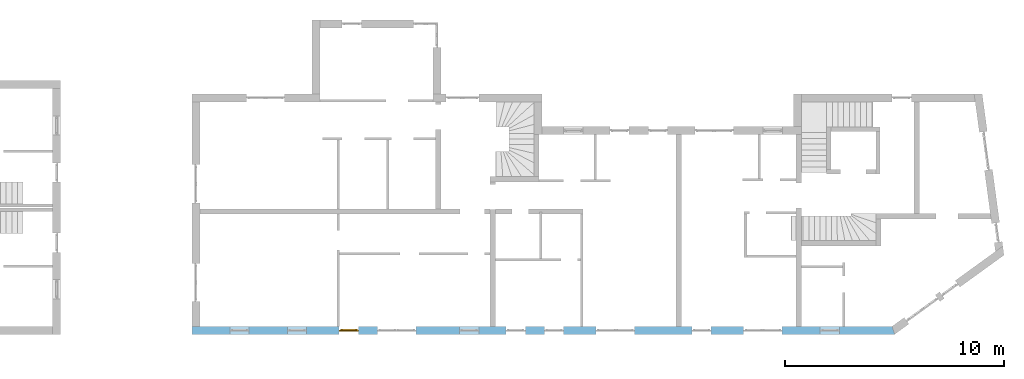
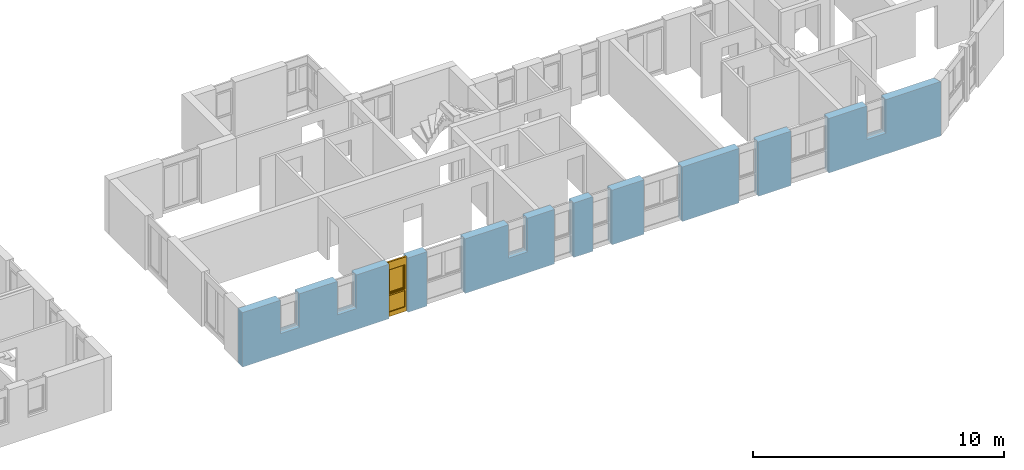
# One storey, part 26 of 42: 1 window, 11 openings, plus 1 element that does not belong to this part.
"""IFC2X3 building model written with IfcOpenShell, lengths in millimetres."""

from ifc_helpers import new_model, entity, si_unit, converted_unit, frame, frame_2d, origin, origin_with_axes, place, context, subcontext, project, spatial, polyline, rectangle, outline, extrude, faceted_brep, material, layer, layer_set, layer_usage, type_object, element, fill, save


model = new_model("IFC2X3")

# Units and contexts
model_context = context("Model", 3, precision=1e-05, world=origin())
body_context = subcontext(model_context, "Body", "Model", "MODEL_VIEW")
ifc_project = project(units=[si_unit("LENGTHUNIT", "METRE", prefix="MILLI"), converted_unit("PLANEANGLEUNIT", "DEGREE", entity("IfcPlaneAngleMeasure", 0.0174532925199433), si_unit("PLANEANGLEUNIT", "RADIAN"), dimensions=[0, 0, 0, 0, 0, 0, 0]), si_unit("AREAUNIT", "SQUARE_METRE"), si_unit("VOLUMEUNIT", "CUBIC_METRE")], contexts=[model_context])

# Building, storey
building_placement = place(None, origin())
building = spatial("IfcBuilding", under=ifc_project, at=building_placement, Name="Gebäude", CompositionType="ELEMENT")
storey_placement = place(building_placement, frame((0.0, 0.0, 2730.0), z_axis=(0.0, 0.0, 1.0), x_axis=(1.0, 0.0, 0.0)))
storey = spatial("IfcBuildingStorey", under=building, at=storey_placement, Name="OG.- Grundriss", CompositionType="ELEMENT", Elevation=2730.0)

# Wall, openings, window
ifc_material_1 = material(Name="Poroton")
ifc_layer = layer(ifc_material_1, 365.0000000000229)
ifc_layer_set = layer_set([ifc_layer])
ifc_layer_usage = layer_usage(ifc_layer_set, "AXIS2", "POSITIVE", 0.0)
wall_placement = place(storey_placement, frame((148357.7928067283, 125274.8877324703, 0.0), z_axis=(0.0, 0.0, 1.0), x_axis=(1.0, -2.749268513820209e-11, 0.0)))
wall = element("IfcWallStandardCase", 1, at=wall_placement, inside=storey, material=ifc_layer_usage, Name="<Unnamed Element>", context=body_context, shape_type="SweptSolid", body=[
    extrude(outline(polyline([(0.0, 0.0), (32144.99999877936, 0.0), (32026.74038666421, 365.0000000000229), (-1.003483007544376e-08, 365.0), (0.0, 0.0)])), origin_with_axes(), (0.0, 0.0, 1.0), 2650.0),
])
opening_1_placement = place(wall_placement, frame((22865.29648749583, -9.393166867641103e-11, 0.0), z_axis=(0.0, 1.0, 0.0), x_axis=(0.0, 0.0, 1.0)))
element("IfcOpeningElement", 2, at=opening_1_placement, cuts=wall, Name="Fensteröffnung", ObjectType="Opening", context=body_context, shape_type="SweptSolid", body=[
    extrude(rectangle(XDim=2650.0, YDim=885.0, at=frame_2d((1325.0, 442.5), x_axis=(1.0, 0.0))), origin_with_axes(), (0.0, 0.0, 1.0), 365.0000000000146),
])
opening_2_placement = place(wall_placement, frame((25240.29648749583, -1.030266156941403e-10, 0.0), z_axis=(0.0, 1.0, 0.0), x_axis=(0.0, 0.0, 1.0)))
element("IfcOpeningElement", 3, at=opening_2_placement, cuts=wall, Name="Fensteröffnung", ObjectType="Opening", context=body_context, shape_type="SweptSolid", body=[
    extrude(rectangle(XDim=2650.0, YDim=1760.0, at=frame_2d((1325.0, 880.0), x_axis=(1.0, 0.0))), origin_with_axes(), (0.0, 0.0, 1.0), 365.0000000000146),
])
opening_3_placement = place(wall_placement, frame((14365.26291869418, -5.847463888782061e-11, 0.0), z_axis=(0.0, 1.0, 0.0), x_axis=(0.0, 0.0, 1.0)))
element("IfcOpeningElement", 4, at=opening_3_placement, cuts=wall, Name="Fensteröffnung", ObjectType="Opening", context=body_context, shape_type="SweptSolid", body=[
    extrude(rectangle(XDim=2650.0, YDim=885.0, at=frame_2d((1325.0, 442.5), x_axis=(1.0, 0.0))), origin_with_axes(), (0.0, 0.0, 1.0), 365.0000000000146),
])
opening_4_placement = place(wall_placement, frame((16123.92212975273, -7.146586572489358e-11, 0.0), z_axis=(0.0, 1.0, 0.0), x_axis=(0.0, 0.0, 1.0)))
element("IfcOpeningElement", 5, at=opening_4_placement, cuts=wall, Name="Fensteröffnung", ObjectType="Opening", context=body_context, shape_type="SweptSolid", body=[
    extrude(rectangle(XDim=2650.0, YDim=885.0, at=frame_2d((1325.0, 442.5), x_axis=(1.0, 0.0))), origin_with_axes(), (0.0, 0.0, 1.0), 365.0000000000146),
])
opening_5_placement = place(wall_placement, frame((6739.999999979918, -3.114109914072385e-11, 0.0), z_axis=(0.0, 1.0, 0.0), x_axis=(0.0, 0.0, 1.0)))
opening_5 = element("IfcOpeningElement", 6, at=opening_5_placement, cuts=wall, Name="Fensteröffnung", ObjectType="Opening", context=body_context, shape_type="SweptSolid", body=[
    extrude(rectangle(XDim=2650.0, YDim=885.0, at=frame_2d((1325.0, 442.5), x_axis=(1.0, 0.0))), origin_with_axes(), (0.0, 0.0, 1.0), 365.0000000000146),
])
opening_6_placement = place(wall_placement, frame((8489.999999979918, -3.477907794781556e-11, 0.0), z_axis=(0.0, 1.0, 0.0), x_axis=(0.0, 0.0, 1.0)))
element("IfcOpeningElement", 7, at=opening_6_placement, cuts=wall, Name="Fensteröffnung", ObjectType="Opening", context=body_context, shape_type="SweptSolid", body=[
    extrude(rectangle(XDim=2650.0, YDim=1760.0, at=frame_2d((1325.0, 880.0), x_axis=(1.0, 0.0))), origin_with_axes(), (0.0, 0.0, 1.0), 365.0000000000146),
])
opening_7_placement = place(wall_placement, frame((1740.0, -3.114109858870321e-11, 1020.0), z_axis=(0.0, 1.0, 0.0), x_axis=(0.0, 0.0, 1.0)))
element("IfcOpeningElement", 8, at=opening_7_placement, cuts=wall, Name="Fensteröffnung", ObjectType="Opening", context=body_context, shape_type="SweptSolid", body=[
    extrude(rectangle(XDim=1630.0, YDim=885.0, at=frame_2d((815.0, 442.5), x_axis=(1.0, 0.0))), origin_with_axes(), (0.0, 0.0, 1.0), 365.0000000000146),
])
opening_8_placement = place(wall_placement, frame((4365.0, -7.494236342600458e-12, 1020.0), z_axis=(0.0, 1.0, 0.0), x_axis=(0.0, 0.0, 1.0)))
element("IfcOpeningElement", 9, at=opening_8_placement, cuts=wall, Name="Fensteröffnung", ObjectType="Opening", context=body_context, shape_type="SweptSolid", body=[
    extrude(rectangle(XDim=1630.0, YDim=885.0, at=frame_2d((815.0, 442.5), x_axis=(1.0, 0.0))), origin_with_axes(), (0.0, 0.0, 1.0), 365.0000000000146),
])
opening_9_placement = place(wall_placement, frame((12240.0, -5.296897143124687e-11, 1020.0), z_axis=(0.0, 1.0, 0.0), x_axis=(0.0, 0.0, 1.0)))
element("IfcOpeningElement", 10, at=opening_9_placement, cuts=wall, Name="Fensteröffnung", ObjectType="Opening", context=body_context, shape_type="SweptSolid", body=[
    extrude(rectangle(XDim=1630.0, YDim=885.0, at=frame_2d((815.0, 442.5), x_axis=(1.0, 0.0))), origin_with_axes(), (0.0, 0.0, 1.0), 365.0000000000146),
])
opening_10_placement = place(wall_placement, frame((18490.51063065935, -4.984640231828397e-11, 0.0), z_axis=(0.0, 1.0, 0.0), x_axis=(0.0, 0.0, 1.0)))
element("IfcOpeningElement", 11, at=opening_10_placement, cuts=wall, Name="Fensteröffnung", ObjectType="Opening", context=body_context, shape_type="SweptSolid", body=[
    extrude(rectangle(XDim=2650.0, YDim=1760.0, at=frame_2d((1325.0, 880.0), x_axis=(1.0, 0.0))), origin_with_axes(), (0.0, 0.0, 1.0), 365.0000000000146),
])
opening_11_placement = place(wall_placement, frame((28740.29648749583, -1.103025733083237e-10, 1020.0), z_axis=(0.0, 1.0, 0.0), x_axis=(0.0, 0.0, 1.0)))
element("IfcOpeningElement", 12, at=opening_11_placement, cuts=wall, Name="Fensteröffnung", ObjectType="Opening", context=body_context, shape_type="SweptSolid", body=[
    extrude(rectangle(XDim=1630.0, YDim=885.0, at=frame_2d((815.0, 442.5), x_axis=(1.0, 0.0))), origin_with_axes(), (0.0, 0.0, 1.0), 365.0000000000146),
])
ifc_material_2 = material()
window_style = type_object("IfcWindowStyle", Name="Fenster", ConstructionType="NOTDEFINED", OperationType="USERDEFINED", ParameterTakesPrecedence=False, Sizeable=False)
window_placement = place(opening_5_placement, frame((0.0, 0.0, 0.0), z_axis=(1.0, 0.0, 0.0), x_axis=(0.0, 1.0, 0.0)))
window = element("IfcWindow", 13, at=window_placement, inside=storey, type_object=window_style, material=ifc_material_2, Name="Fenster", OverallHeight=2650.0, OverallWidth=885.0, context=body_context, shape_type="Brep", body=[
    faceted_brep([(885.0000000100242, 200.0000000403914, 2650.0), (815.0000000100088, 200.0000000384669, 2650.0), (815.0000000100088, 200.0000000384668, -2.449293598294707e-15), (885.0000000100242, 200.0000000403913, -2.449293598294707e-15), (885.0000000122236, 120.0000000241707, 2.449293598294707e-15), (815.0000000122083, 120.0000000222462, 2.449293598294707e-15), (815.0000000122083, 120.0000000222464, 2650.0), (885.0000000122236, 120.0000000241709, 2650.0), (885.0000000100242, 200.0000000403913, -2.449293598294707e-15), (885.0000000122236, 120.0000000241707, 2.449293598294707e-15), (885.0000000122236, 120.0000000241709, 2650.0), (885.0000000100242, 200.0000000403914, 2650.0), (815.0000000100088, 200.0000000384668, -2.449293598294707e-15), (815.0000000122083, 120.0000000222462, 2.449293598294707e-15), (885.0000000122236, 120.0000000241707, 2.449293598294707e-15), (885.0000000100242, 200.0000000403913, -2.449293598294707e-15), (815.0000000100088, 200.0000000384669, 2650.0), (815.0000000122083, 120.0000000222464, 2650.0), (815.0000000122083, 120.0000000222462, 2.449293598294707e-15), (815.0000000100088, 200.0000000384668, -2.449293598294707e-15), (885.0000000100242, 200.0000000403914, 2650.0), (885.0000000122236, 120.0000000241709, 2650.0), (815.0000000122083, 120.0000000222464, 2650.0), (815.0000000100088, 200.0000000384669, 2650.0)], [[[0, 1, 2, 3]], [[4, 5, 6, 7]], [[8, 9, 10, 11]], [[12, 13, 14, 15]], [[16, 17, 18, 19]], [[20, 21, 22, 23]]], orient=[[False], [False], [False], [False], [False], [False]]),
    faceted_brep([(69.99999999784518, 200.0000000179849, 2650.0), (-2.170168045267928e-09, 200.0000000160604, 2650.0), (-2.170168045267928e-09, 200.0000000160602, -2.449293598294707e-15), (69.99999999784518, 200.0000000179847, -2.449293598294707e-15), (70.00000000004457, 120.0000000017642, 2.449293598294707e-15), (2.921751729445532e-11, 119.9999999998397, 2.449293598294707e-15), (2.921751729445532e-11, 119.9999999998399, 2650.0), (70.00000000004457, 120.0000000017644, 2650.0), (69.99999999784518, 200.0000000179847, -2.449293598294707e-15), (70.00000000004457, 120.0000000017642, 2.449293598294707e-15), (70.00000000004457, 120.0000000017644, 2650.0), (69.99999999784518, 200.0000000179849, 2650.0), (-2.170168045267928e-09, 200.0000000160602, -2.449293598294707e-15), (2.921751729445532e-11, 119.9999999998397, 2.449293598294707e-15), (70.00000000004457, 120.0000000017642, 2.449293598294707e-15), (69.99999999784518, 200.0000000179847, -2.449293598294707e-15), (-2.170168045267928e-09, 200.0000000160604, 2650.0), (2.921751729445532e-11, 119.9999999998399, 2650.0), (2.921751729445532e-11, 119.9999999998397, 2.449293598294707e-15), (-2.170168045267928e-09, 200.0000000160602, -2.449293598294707e-15), (69.99999999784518, 200.0000000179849, 2650.0), (70.00000000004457, 120.0000000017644, 2650.0), (2.921751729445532e-11, 119.9999999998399, 2650.0), (-2.170168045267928e-09, 200.0000000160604, 2650.0)], [[[0, 1, 2, 3]], [[4, 5, 6, 7]], [[8, 9, 10, 11]], [[12, 13, 14, 15]], [[16, 17, 18, 19]], [[20, 21, 22, 23]]], orient=[[False], [False], [False], [False], [False], [False]]),
    faceted_brep([(815.0000000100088, 200.0000000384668, 220.0), (69.99999999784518, 200.0000000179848, 220.0), (69.99999999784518, 200.0000000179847, -2.449293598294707e-15), (815.0000000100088, 200.0000000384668, -2.449293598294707e-15), (815.0000000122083, 120.0000000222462, 2.449293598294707e-15), (70.00000000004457, 120.0000000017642, 2.449293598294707e-15), (70.00000000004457, 120.0000000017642, 220.0), (815.0000000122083, 120.0000000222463, 220.0), (815.0000000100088, 200.0000000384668, -2.449293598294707e-15), (815.0000000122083, 120.0000000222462, 2.449293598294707e-15), (815.0000000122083, 120.0000000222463, 220.0), (815.0000000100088, 200.0000000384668, 220.0), (69.99999999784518, 200.0000000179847, -2.449293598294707e-15), (70.00000000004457, 120.0000000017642, 2.449293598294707e-15), (815.0000000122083, 120.0000000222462, 2.449293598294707e-15), (815.0000000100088, 200.0000000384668, -2.449293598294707e-15), (69.99999999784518, 200.0000000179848, 220.0), (70.00000000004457, 120.0000000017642, 220.0), (70.00000000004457, 120.0000000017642, 2.449293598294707e-15), (69.99999999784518, 200.0000000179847, -2.449293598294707e-15), (815.0000000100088, 200.0000000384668, 220.0), (815.0000000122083, 120.0000000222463, 220.0), (70.00000000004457, 120.0000000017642, 220.0), (69.99999999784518, 200.0000000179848, 220.0)], [[[0, 1, 2, 3]], [[4, 5, 6, 7]], [[8, 9, 10, 11]], [[12, 13, 14, 15]], [[16, 17, 18, 19]], [[20, 21, 22, 23]]], orient=[[False], [False], [False], [False], [False], [False]]),
    faceted_brep([(815.0000000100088, 200.0000000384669, 2650.0), (69.99999999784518, 200.0000000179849, 2650.0), (69.99999999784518, 200.0000000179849, 2280.0), (815.0000000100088, 200.0000000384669, 2280.0), (815.0000000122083, 120.0000000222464, 2280.0), (70.00000000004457, 120.0000000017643, 2280.0), (70.00000000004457, 120.0000000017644, 2650.0), (815.0000000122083, 120.0000000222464, 2650.0), (815.0000000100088, 200.0000000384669, 2280.0), (815.0000000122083, 120.0000000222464, 2280.0), (815.0000000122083, 120.0000000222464, 2650.0), (815.0000000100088, 200.0000000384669, 2650.0), (69.99999999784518, 200.0000000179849, 2280.0), (70.00000000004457, 120.0000000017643, 2280.0), (815.0000000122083, 120.0000000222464, 2280.0), (815.0000000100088, 200.0000000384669, 2280.0), (69.99999999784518, 200.0000000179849, 2650.0), (70.00000000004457, 120.0000000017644, 2650.0), (70.00000000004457, 120.0000000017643, 2280.0), (69.99999999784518, 200.0000000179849, 2280.0), (815.0000000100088, 200.0000000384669, 2650.0), (815.0000000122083, 120.0000000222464, 2650.0), (70.00000000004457, 120.0000000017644, 2650.0), (69.99999999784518, 200.0000000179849, 2650.0)], [[[0, 1, 2, 3]], [[4, 5, 6, 7]], [[8, 9, 10, 11]], [[12, 13, 14, 15]], [[16, 17, 18, 19]], [[20, 21, 22, 23]]], orient=[[False], [False], [False], [False], [False], [False]]),
    faceted_brep([(815.0000000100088, 200.0000000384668, 1090.0), (69.99999999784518, 200.0000000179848, 1090.0), (69.99999999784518, 200.0000000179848, 1020.0), (815.0000000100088, 200.0000000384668, 1020.0), (815.0000000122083, 120.0000000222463, 1020.0), (70.00000000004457, 120.0000000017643, 1020.0), (70.00000000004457, 120.0000000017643, 1090.0), (815.0000000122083, 120.0000000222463, 1090.0), (815.0000000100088, 200.0000000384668, 1020.0), (815.0000000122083, 120.0000000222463, 1020.0), (815.0000000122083, 120.0000000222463, 1090.0), (815.0000000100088, 200.0000000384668, 1090.0), (69.99999999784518, 200.0000000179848, 1020.0), (70.00000000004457, 120.0000000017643, 1020.0), (815.0000000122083, 120.0000000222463, 1020.0), (815.0000000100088, 200.0000000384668, 1020.0), (69.99999999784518, 200.0000000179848, 1090.0), (70.00000000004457, 120.0000000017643, 1090.0), (70.00000000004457, 120.0000000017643, 1020.0), (69.99999999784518, 200.0000000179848, 1020.0), (815.0000000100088, 200.0000000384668, 1090.0), (815.0000000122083, 120.0000000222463, 1090.0), (70.00000000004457, 120.0000000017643, 1090.0), (69.99999999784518, 200.0000000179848, 1090.0)], [[[0, 1, 2, 3]], [[4, 5, 6, 7]], [[8, 9, 10, 11]], [[12, 13, 14, 15]], [[16, 17, 18, 19]], [[20, 21, 22, 23]]], orient=[[False], [False], [False], [False], [False], [False]]),
    faceted_brep([(815.0000000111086, 160.0000000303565, 220.0), (815.0000000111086, 160.0000000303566, 1020.0), (69.99999999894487, 160.0000000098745, 1020.0), (69.99999999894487, 160.0000000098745, 220.0), (815.0000000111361, 159.0000000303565, 220.0), (69.99999999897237, 159.0000000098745, 220.0), (69.99999999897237, 159.0000000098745, 1020.0), (815.0000000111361, 159.0000000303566, 1020.0), (815.0000000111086, 160.0000000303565, 220.0), (815.0000000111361, 159.0000000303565, 220.0), (815.0000000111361, 159.0000000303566, 1020.0), (815.0000000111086, 160.0000000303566, 1020.0), (815.0000000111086, 160.0000000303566, 1020.0), (815.0000000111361, 159.0000000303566, 1020.0), (69.99999999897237, 159.0000000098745, 1020.0), (69.99999999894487, 160.0000000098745, 1020.0), (69.99999999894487, 160.0000000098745, 1020.0), (69.99999999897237, 159.0000000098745, 1020.0), (69.99999999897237, 159.0000000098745, 220.0), (69.99999999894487, 160.0000000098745, 220.0), (69.99999999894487, 160.0000000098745, 220.0), (69.99999999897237, 159.0000000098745, 220.0), (815.0000000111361, 159.0000000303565, 220.0), (815.0000000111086, 160.0000000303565, 220.0)], [[[0, 1, 2, 3]], [[4, 5, 6, 7]], [[8, 9, 10, 11]], [[12, 13, 14, 15]], [[16, 17, 18, 19]], [[20, 21, 22, 23]]], orient=[[False], [False], [False], [False], [False], [False]]),
    faceted_brep([(835.0000000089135, 240.000000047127, 2300.0), (765.0000000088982, 240.0000000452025, 2300.0), (765.0000000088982, 240.0000000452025, 1070.0), (835.0000000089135, 240.000000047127, 1070.0), (835.000000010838, 170.000000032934, 1070.0), (765.0000000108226, 170.0000000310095, 1070.0), (765.0000000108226, 170.0000000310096, 2300.0), (835.000000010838, 170.0000000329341, 2300.0), (835.0000000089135, 240.000000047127, 1070.0), (835.000000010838, 170.000000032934, 1070.0), (835.000000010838, 170.0000000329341, 2300.0), (835.0000000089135, 240.000000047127, 2300.0), (765.0000000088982, 240.0000000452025, 1070.0), (765.0000000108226, 170.0000000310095, 1070.0), (835.000000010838, 170.000000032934, 1070.0), (835.0000000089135, 240.000000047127, 1070.0), (765.0000000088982, 240.0000000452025, 2300.0), (765.0000000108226, 170.0000000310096, 2300.0), (765.0000000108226, 170.0000000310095, 1070.0), (765.0000000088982, 240.0000000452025, 1070.0), (835.0000000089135, 240.000000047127, 2300.0), (835.000000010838, 170.0000000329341, 2300.0), (765.0000000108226, 170.0000000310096, 2300.0), (765.0000000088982, 240.0000000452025, 2300.0)], [[[0, 1, 2, 3]], [[4, 5, 6, 7]], [[8, 9, 10, 11]], [[12, 13, 14, 15]], [[16, 17, 18, 19]], [[20, 21, 22, 23]]], orient=[[False], [False], [False], [False], [False], [False]]),
    faceted_brep([(119.9999999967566, 240.0000000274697, 2300.0), (49.99999999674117, 240.0000000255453, 2300.0), (49.99999999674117, 240.0000000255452, 1070.0), (119.9999999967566, 240.0000000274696, 1070.0), (119.9999999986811, 170.0000000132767, 1070.0), (49.99999999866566, 170.0000000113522, 1070.0), (49.99999999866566, 170.0000000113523, 2300.0), (119.9999999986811, 170.0000000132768, 2300.0), (119.9999999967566, 240.0000000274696, 1070.0), (119.9999999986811, 170.0000000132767, 1070.0), (119.9999999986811, 170.0000000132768, 2300.0), (119.9999999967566, 240.0000000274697, 2300.0), (49.99999999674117, 240.0000000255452, 1070.0), (49.99999999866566, 170.0000000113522, 1070.0), (119.9999999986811, 170.0000000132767, 1070.0), (119.9999999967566, 240.0000000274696, 1070.0), (49.99999999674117, 240.0000000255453, 2300.0), (49.99999999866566, 170.0000000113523, 2300.0), (49.99999999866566, 170.0000000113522, 1070.0), (49.99999999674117, 240.0000000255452, 1070.0), (119.9999999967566, 240.0000000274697, 2300.0), (119.9999999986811, 170.0000000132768, 2300.0), (49.99999999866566, 170.0000000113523, 2300.0), (49.99999999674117, 240.0000000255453, 2300.0)], [[[0, 1, 2, 3]], [[4, 5, 6, 7]], [[8, 9, 10, 11]], [[12, 13, 14, 15]], [[16, 17, 18, 19]], [[20, 21, 22, 23]]], orient=[[False], [False], [False], [False], [False], [False]]),
    faceted_brep([(765.0000000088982, 240.0000000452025, 1140.0), (119.9999999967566, 240.0000000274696, 1140.0), (119.9999999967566, 240.0000000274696, 1070.0), (765.0000000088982, 240.0000000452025, 1070.0), (765.0000000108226, 170.0000000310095, 1070.0), (119.9999999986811, 170.0000000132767, 1070.0), (119.9999999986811, 170.0000000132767, 1140.0), (765.0000000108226, 170.0000000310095, 1140.0), (765.0000000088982, 240.0000000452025, 1070.0), (765.0000000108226, 170.0000000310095, 1070.0), (765.0000000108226, 170.0000000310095, 1140.0), (765.0000000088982, 240.0000000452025, 1140.0), (119.9999999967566, 240.0000000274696, 1070.0), (119.9999999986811, 170.0000000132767, 1070.0), (765.0000000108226, 170.0000000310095, 1070.0), (765.0000000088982, 240.0000000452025, 1070.0), (119.9999999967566, 240.0000000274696, 1140.0), (119.9999999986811, 170.0000000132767, 1140.0), (119.9999999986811, 170.0000000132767, 1070.0), (119.9999999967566, 240.0000000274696, 1070.0), (765.0000000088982, 240.0000000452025, 1140.0), (765.0000000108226, 170.0000000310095, 1140.0), (119.9999999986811, 170.0000000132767, 1140.0), (119.9999999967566, 240.0000000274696, 1140.0)], [[[0, 1, 2, 3]], [[4, 5, 6, 7]], [[8, 9, 10, 11]], [[12, 13, 14, 15]], [[16, 17, 18, 19]], [[20, 21, 22, 23]]], orient=[[False], [False], [False], [False], [False], [False]]),
    faceted_brep([(765.0000000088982, 240.0000000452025, 2300.0), (119.9999999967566, 240.0000000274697, 2300.0), (119.9999999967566, 240.0000000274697, 2230.0), (765.0000000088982, 240.0000000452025, 2230.0), (765.0000000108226, 170.0000000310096, 2230.0), (119.9999999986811, 170.0000000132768, 2230.0), (119.9999999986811, 170.0000000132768, 2300.0), (765.0000000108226, 170.0000000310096, 2300.0), (765.0000000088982, 240.0000000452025, 2230.0), (765.0000000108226, 170.0000000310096, 2230.0), (765.0000000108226, 170.0000000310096, 2300.0), (765.0000000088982, 240.0000000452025, 2300.0), (119.9999999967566, 240.0000000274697, 2230.0), (119.9999999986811, 170.0000000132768, 2230.0), (765.0000000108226, 170.0000000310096, 2230.0), (765.0000000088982, 240.0000000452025, 2230.0), (119.9999999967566, 240.0000000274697, 2300.0), (119.9999999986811, 170.0000000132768, 2300.0), (119.9999999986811, 170.0000000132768, 2230.0), (119.9999999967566, 240.0000000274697, 2230.0), (765.0000000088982, 240.0000000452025, 2300.0), (765.0000000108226, 170.0000000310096, 2300.0), (119.9999999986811, 170.0000000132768, 2300.0), (119.9999999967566, 240.0000000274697, 2300.0)], [[[0, 1, 2, 3]], [[4, 5, 6, 7]], [[8, 9, 10, 11]], [[12, 13, 14, 15]], [[16, 17, 18, 19]], [[20, 21, 22, 23]]], orient=[[False], [False], [False], [False], [False], [False]]),
    faceted_brep([(765.0000000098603, 205.000000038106, 1140.0), (765.0000000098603, 205.0000000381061, 2230.0), (119.9999999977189, 205.0000000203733, 2230.0), (119.9999999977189, 205.0000000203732, 1140.0), (765.0000000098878, 204.000000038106, 1140.0), (119.9999999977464, 204.0000000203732, 1140.0), (119.9999999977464, 204.0000000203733, 2230.0), (765.0000000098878, 204.0000000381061, 2230.0), (765.0000000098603, 205.000000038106, 1140.0), (765.0000000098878, 204.000000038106, 1140.0), (765.0000000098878, 204.0000000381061, 2230.0), (765.0000000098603, 205.0000000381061, 2230.0), (765.0000000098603, 205.0000000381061, 2230.0), (765.0000000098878, 204.0000000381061, 2230.0), (119.9999999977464, 204.0000000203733, 2230.0), (119.9999999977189, 205.0000000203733, 2230.0), (119.9999999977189, 205.0000000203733, 2230.0), (119.9999999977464, 204.0000000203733, 2230.0), (119.9999999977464, 204.0000000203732, 1140.0), (119.9999999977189, 205.0000000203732, 1140.0), (119.9999999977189, 205.0000000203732, 1140.0), (119.9999999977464, 204.0000000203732, 1140.0), (765.0000000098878, 204.000000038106, 1140.0), (765.0000000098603, 205.000000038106, 1140.0)], [[[0, 1, 2, 3]], [[4, 5, 6, 7]], [[8, 9, 10, 11]], [[12, 13, 14, 15]], [[16, 17, 18, 19]], [[20, 21, 22, 23]]], orient=[[False], [False], [False], [False], [False], [False]]),
])
fill(opening_5, window)

save(model, "model.ifc")
